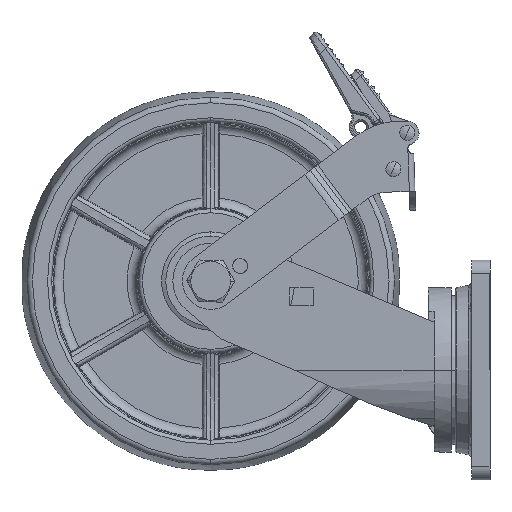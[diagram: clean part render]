
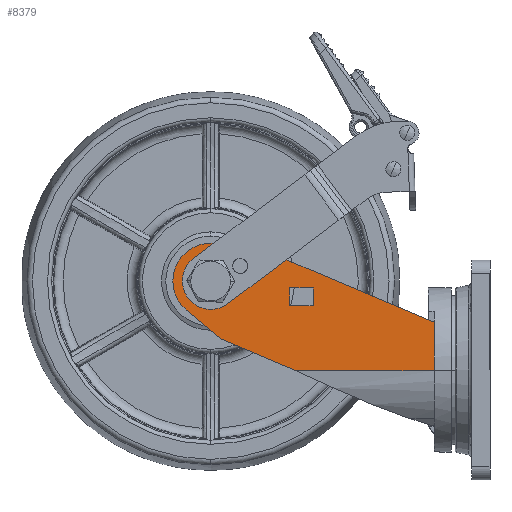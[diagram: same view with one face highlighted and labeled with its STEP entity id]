
A CAD part, left-side view. The second image highlights one B-rep face of the part: STEP entity #8379.
In plain terms, the highlighted planar face has unit normal (-1, 0, 0) as drawn and (1, 0, 0) by its records, which use the part's own axes.
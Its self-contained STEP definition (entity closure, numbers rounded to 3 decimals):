
#7839=DIRECTION('',(0.,0.,1.));
#7840=VECTOR('',#7839,25.413);
#7841=CARTESIAN_POINT('',(0.,38.,-1.068));
#7842=LINE('',#7841,#7840);
#7909=DIRECTION('',(0.,1.,0.));
#7910=VECTOR('',#7909,73.214);
#7911=CARTESIAN_POINT('',(0.,-35.214,-1.068));
#7912=LINE('',#7911,#7910);
#7917=DIRECTION('',(0.,-0.921,0.391));
#7918=VECTOR('',#7917,43.054);
#7919=CARTESIAN_POINT('',(0.,-35.214,-1.068));
#7920=LINE('',#7919,#7918);
#7921=DIRECTION('',(0.,-0.766,0.643));
#7922=VECTOR('',#7921,23.511);
#7923=CARTESIAN_POINT('',(0.,-74.845,15.755));
#7924=LINE('',#7923,#7922);
#7925=CARTESIAN_POINT('',(0.,-80.,46.188));
#7926=DIRECTION('',(-1.,0.,0.));
#7927=DIRECTION('',(0.,-0.643,-0.766));
#7928=AXIS2_PLACEMENT_3D('',#7925,#7926,#7927);
#7930=CARTESIAN_POINT('',(0.,-80.,46.188));
#7931=DIRECTION('',(-1.,0.,0.));
#7932=DIRECTION('',(0.,0.,1.));
#7933=AXIS2_PLACEMENT_3D('',#7930,#7931,#7932);
#7935=DIRECTION('',(0.,0.995,-0.105));
#7936=VECTOR('',#7935,23.511);
#7937=CARTESIAN_POINT('',(0.,-77.909,66.078));
#7938=LINE('',#7937,#7936);
#7939=DIRECTION('',(0.,0.921,-0.391));
#7940=VECTOR('',#7939,100.518);
#7941=CARTESIAN_POINT('',(0.,-54.527,63.621));
#7942=LINE('',#7941,#7940);
#7943=DIRECTION('',(0.,0.017,1.));
#7944=VECTOR('',#7943,9.5);
#7945=CARTESIAN_POINT('',(0.,-25.934,33.03));
#7946=LINE('',#7945,#7944);
#7947=DIRECTION('',(0.,-1.,0.017));
#7948=VECTOR('',#7947,12.5);
#7949=CARTESIAN_POINT('',(0.,-25.768,42.528));
#7950=LINE('',#7949,#7948);
#7951=DIRECTION('',(0.,-0.017,-1.));
#7952=VECTOR('',#7951,9.5);
#7953=CARTESIAN_POINT('',(0.,-38.266,42.746));
#7954=LINE('',#7953,#7952);
#7955=DIRECTION('',(0.,1.,-0.017));
#7956=VECTOR('',#7955,12.5);
#7957=CARTESIAN_POINT('',(0.,-38.432,33.248));
#7958=LINE('',#7957,#7956);
#7959=CARTESIAN_POINT('',(0.,-64.47,54.128));
#7960=DIRECTION('',(1.,0.,0.));
#7961=DIRECTION('',(0.,0.,-1.));
#7962=AXIS2_PLACEMENT_3D('',#7959,#7960,#7961);
#7964=CARTESIAN_POINT('',(0.,-64.47,54.128));
#7965=DIRECTION('',(1.,0.,0.));
#7966=DIRECTION('',(0.,0.,1.));
#7967=AXIS2_PLACEMENT_3D('',#7964,#7965,#7966);
#7969=CARTESIAN_POINT('',(0.,-80.,46.188));
#7970=DIRECTION('',(1.,0.,0.));
#7971=DIRECTION('',(0.,0.,-1.));
#7972=AXIS2_PLACEMENT_3D('',#7969,#7970,#7971);
#7974=CARTESIAN_POINT('',(0.,-80.,46.188));
#7975=DIRECTION('',(1.,0.,0.));
#7976=DIRECTION('',(0.,0.,1.));
#7977=AXIS2_PLACEMENT_3D('',#7974,#7975,#7976);
#8016=CARTESIAN_POINT('',(0.,-38.266,42.746));
#8018=VERTEX_POINT('',#8016);
#8021=CARTESIAN_POINT('',(0.,-38.432,33.248));
#8022=VERTEX_POINT('',#8021);
#8024=CARTESIAN_POINT('',(0.,-25.768,42.528));
#8026=VERTEX_POINT('',#8024);
#8028=CARTESIAN_POINT('',(0.,-25.934,33.03));
#8030=VERTEX_POINT('',#8028);
#8055=CARTESIAN_POINT('',(0.,38.,-1.068));
#8056=VERTEX_POINT('',#8055);
#8057=CARTESIAN_POINT('',(0.,38.,24.345));
#8058=VERTEX_POINT('',#8057);
#8066=CARTESIAN_POINT('',(0.,-35.214,-1.068));
#8067=VERTEX_POINT('',#8066);
#8072=CARTESIAN_POINT('',(0.,-74.845,15.755));
#8073=VERTEX_POINT('',#8072);
#8074=CARTESIAN_POINT('',(0.,-92.856,30.867));
#8075=VERTEX_POINT('',#8074);
#8076=CARTESIAN_POINT('',(0.,-80.,66.188));
#8077=VERTEX_POINT('',#8076);
#8078=CARTESIAN_POINT('',(0.,-77.909,66.078));
#8079=VERTEX_POINT('',#8078);
#8080=CARTESIAN_POINT('',(0.,-54.527,63.621));
#8081=VERTEX_POINT('',#8080);
#8082=CARTESIAN_POINT('',(0.,-64.47,50.128));
#8083=CARTESIAN_POINT('',(0.,-64.47,58.128));
#8084=VERTEX_POINT('',#8082);
#8085=VERTEX_POINT('',#8083);
#8086=CARTESIAN_POINT('',(0.,-80.,38.688));
#8087=CARTESIAN_POINT('',(0.,-80.,53.688));
#8088=VERTEX_POINT('',#8086);
#8089=VERTEX_POINT('',#8087);
#8340=CARTESIAN_POINT('',(0.,-80.,46.188));
#8341=DIRECTION('',(1.,0.,0.));
#8342=DIRECTION('',(0.,0.,-1.));
#8343=AXIS2_PLACEMENT_3D('',#8340,#8341,#8342);
#8344=PLANE('',#8343);
#8345=ORIENTED_EDGE('',*,*,#8333,.F.);
#8347=ORIENTED_EDGE('',*,*,#8346,.T.);
#8349=ORIENTED_EDGE('',*,*,#8348,.T.);
#8351=ORIENTED_EDGE('',*,*,#8350,.T.);
#8353=ORIENTED_EDGE('',*,*,#8352,.T.);
#8355=ORIENTED_EDGE('',*,*,#8354,.T.);
#8357=ORIENTED_EDGE('',*,*,#8356,.T.);
#8358=ORIENTED_EDGE('',*,*,#8199,.F.);
#8359=EDGE_LOOP('',(#8345,#8347,#8349,#8351,#8353,#8355,#8357,#8358));
#8360=FACE_OUTER_BOUND('',#8359,.F.);
#8361=ORIENTED_EDGE('',*,*,#8131,.T.);
#8362=ORIENTED_EDGE('',*,*,#8116,.T.);
#8363=ORIENTED_EDGE('',*,*,#8101,.T.);
#8364=ORIENTED_EDGE('',*,*,#8145,.T.);
#8365=EDGE_LOOP('',(#8361,#8362,#8363,#8364));
#8366=FACE_BOUND('',#8365,.F.);
#8368=ORIENTED_EDGE('',*,*,#8367,.T.);
#8370=ORIENTED_EDGE('',*,*,#8369,.T.);
#8371=EDGE_LOOP('',(#8368,#8370));
#8372=FACE_BOUND('',#8371,.F.);
#8374=ORIENTED_EDGE('',*,*,#8373,.T.);
#8376=ORIENTED_EDGE('',*,*,#8375,.T.);
#8377=EDGE_LOOP('',(#8374,#8376));
#8378=FACE_BOUND('',#8377,.F.);
#7929=CIRCLE('',#7928,20.);
#7934=CIRCLE('',#7933,20.);
#7963=CIRCLE('',#7962,4.);
#7968=CIRCLE('',#7967,4.);
#7973=CIRCLE('',#7972,7.5);
#7978=CIRCLE('',#7977,7.5);
#8101=EDGE_CURVE('',#8018,#8022,#7954,.T.);
#8116=EDGE_CURVE('',#8026,#8018,#7950,.T.);
#8131=EDGE_CURVE('',#8030,#8026,#7946,.T.);
#8145=EDGE_CURVE('',#8022,#8030,#7958,.T.);
#8199=EDGE_CURVE('',#8056,#8058,#7842,.T.);
#8333=EDGE_CURVE('',#8067,#8056,#7912,.T.);
#8346=EDGE_CURVE('',#8067,#8073,#7920,.T.);
#8348=EDGE_CURVE('',#8073,#8075,#7924,.T.);
#8350=EDGE_CURVE('',#8075,#8077,#7929,.T.);
#8352=EDGE_CURVE('',#8077,#8079,#7934,.T.);
#8354=EDGE_CURVE('',#8079,#8081,#7938,.T.);
#8356=EDGE_CURVE('',#8081,#8058,#7942,.T.);
#8367=EDGE_CURVE('',#8084,#8085,#7963,.T.);
#8369=EDGE_CURVE('',#8085,#8084,#7968,.T.);
#8373=EDGE_CURVE('',#8088,#8089,#7973,.T.);
#8375=EDGE_CURVE('',#8089,#8088,#7978,.T.);
#8379=ADVANCED_FACE('',(#8360,#8366,#8372,#8378),#8344,.T.);
